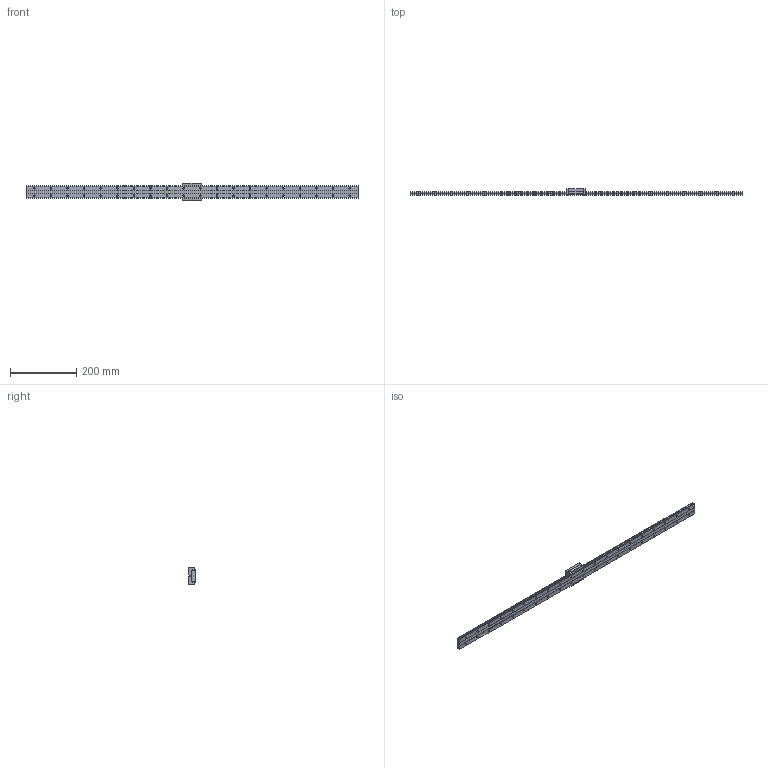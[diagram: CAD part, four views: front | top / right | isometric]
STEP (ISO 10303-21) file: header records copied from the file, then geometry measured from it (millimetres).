
FILE_DESCRIPTION( ( '' ), '1' );
FILE_NAME( 'C:/Users/v3-771-32344/Documents/Website 2016/STEP/SHW21CR1UU1000250470.5000.stp', '2016-11-10T12:46:04', ( '' ), ( '' ), ' ', ' ', ' ' );
FILE_SCHEMA( ( 'CONFIG_CONTROL_DESIGN' ) );
Length unit declared in the file: millimetre
Products named in the file (2): 1; 2
Bounding box: 1000 x 21 x 54 mm (x, y, z)
Volume: 408073.9 mm3; surface area: 117998.8 mm2
Topology: 2 solids, 2 shells, 354 faces, 908 edges, 596 vertices
Faces by surface type: cylinder 210, plane 128, cone 16
Entity records: 11108 total; most frequent: DIRECTION 2044, CARTESIAN_POINT 1852, ORIENTED_EDGE 1800, EDGE_CURVE 900, AXIS2_PLACEMENT_3D 788, VERTEX_POINT 596, EDGE_LOOP 480, LINE 468
